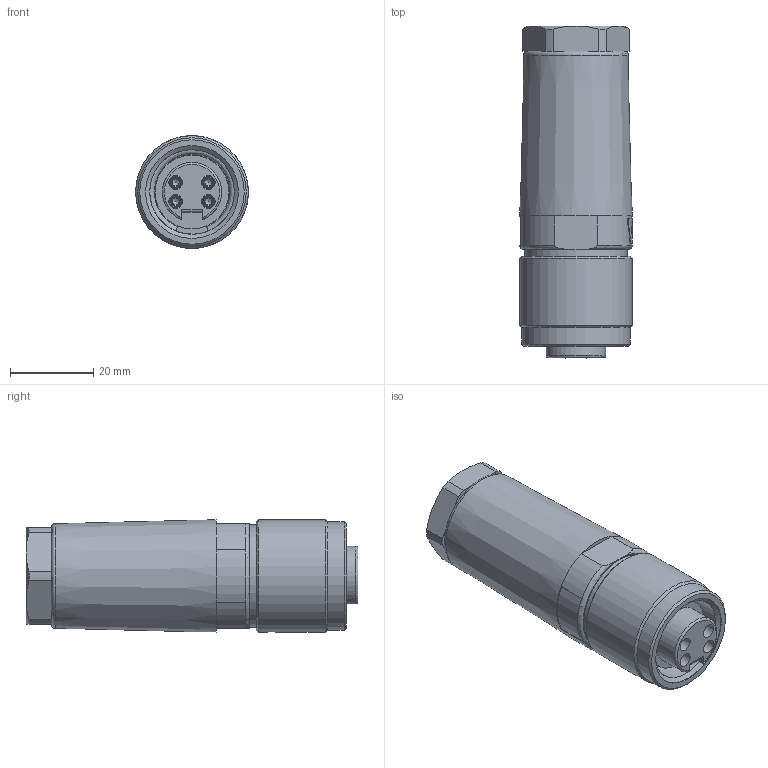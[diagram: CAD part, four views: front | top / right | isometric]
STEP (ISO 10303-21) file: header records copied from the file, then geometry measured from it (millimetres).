
FILE_DESCRIPTION( ( 'Unknown' ), '1' );
FILE_NAME( 'C:/Users/txr10011/Documents/1_in Bearbeitung/170222/Beenders/RKC 40-13,5 .stp', 'Unknown', ( 'Unknown' ), ( 'Unknown' ), 'PSStep 17.0.49', 'Unknown', ' ' );
FILE_SCHEMA( ( 'AUTOMOTIVE_DESIGN { 1 0 10303 214 1 1 1 1 }' ) );
Length unit declared in the file: millimetre
Products named in the file (1): 000-521-C04_1_1_000133949DNR
Bounding box: 27 x 79.5 x 27 mm (x, y, z)
Volume: 38483.3 mm3; surface area: 10523.5 mm2
Topology: 1 solids, 3 shells, 210 faces, 527 edges, 339 vertices
Faces by surface type: plane 97, cone 49, cylinder 42, torus 14, extrusion 6, bspline 2
Full cylindrical faces by diameter (mm): 2.2 x4, 3 x4, 3.35 x4, 3.5 x1, 13.5 x2, 13.8 x1, 15.5 x1, 17.7 x1, 20.262 x1, 22.225 x1, 24.5 x1, 26 x1, 27 x1
Entity records: 9748 total; most frequent: CARTESIAN_POINT 3637, DIRECTION 936, ORIENTED_EDGE 870, EDGE_CURVE 435, AXIS2_PLACEMENT_3D 401, VERTEX_POINT 308, EDGE_LOOP 269, FACE_OUTER_BOUND 228
